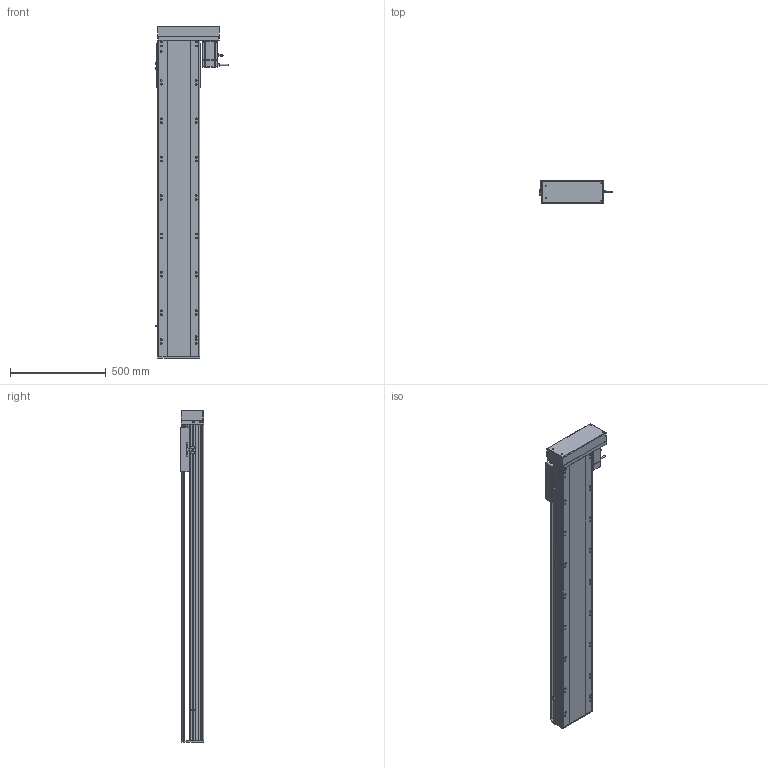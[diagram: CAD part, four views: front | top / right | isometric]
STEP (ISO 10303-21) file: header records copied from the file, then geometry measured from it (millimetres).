
FILE_DESCRIPTION (( 'STEP AP214' ), '1' );
FILE_NAME ('RTH22-XX-1350-L-M75-C4.STEP', '2025-10-24T11:02:49', ( 'Microsoft' ), ( 'Microsoft' ), 'SwSTEP 2.0', 'SolidWorks 2018', '' );
FILE_SCHEMA (( 'AUTOMOTIVE_DESIGN' ));
Length unit declared in the file: millimetre
Products named in the file (10): N_RTH22-GY-001耜裔^RTH22-XX-XX-L-M75-C4; RTH22-XX-1350-L-M75-C4; N_RTH22-L-004-SFS25賑釱^RTH22-XX-XX-L-M75-C4; N_RTH22-GY-013外置感应片^RTH22-XX-XX-L-M75-C4; N_RTH22-L-007奻裔^RTH22-XX-XX-L-M75-C4; N_RTH22-L-018裔赽^RTH22-XX-XX-L-M75-C4; N_OMRON EE-SX672 传感器^RTH22-XX-XX-L-M75-C4; N_750W萇儂^RTH22-XX-XX-L-M75-C4; N_RTH22-L-011菁釱^RTH22-XX-XX-L-M75-C4; N_RTH22-L-008-P75萇儂啣^RTH22-XX-XX-L-M75-C4
Assembly tree (11 placements, depth 2):
  RTH22-XX-1350-L-M75-C4
    N_RTH22-L-011菁釱^RTH22-XX-XX-L-M75-C4
    N_RTH22-GY-001耜裔^RTH22-XX-XX-L-M75-C4
    N_750W萇儂^RTH22-XX-XX-L-M75-C4
    N_RTH22-L-008-P75萇儂啣^RTH22-XX-XX-L-M75-C4
    N_RTH22-L-007奻裔^RTH22-XX-XX-L-M75-C4
    N_RTH22-L-018裔赽^RTH22-XX-XX-L-M75-C4
    N_OMRON EE-SX672 传感器^RTH22-XX-XX-L-M75-C4  x3
    N_RTH22-GY-013外置感应片^RTH22-XX-XX-L-M75-C4
    N_RTH22-L-004-SFS25賑釱^RTH22-XX-XX-L-M75-C4
Bounding box: 384.7 x 122 x 1729.7 mm (x, y, z)
Volume: 22988011.8 mm3; surface area: 2519155.4 mm2
Topology: 11 solids, 11 shells, 1642 faces, 4479 edges, 2881 vertices
Faces by surface type: plane 799, cylinder 494, bspline 279, cone 70
Entity records: 41651 total; most frequent: CARTESIAN_POINT 12558, ORIENTED_EDGE 5910, DIRECTION 5625, EDGE_CURVE 2955, VERTEX_POINT 1917, AXIS2_PLACEMENT_3D 1912, VECTOR 1801, LINE 1801
